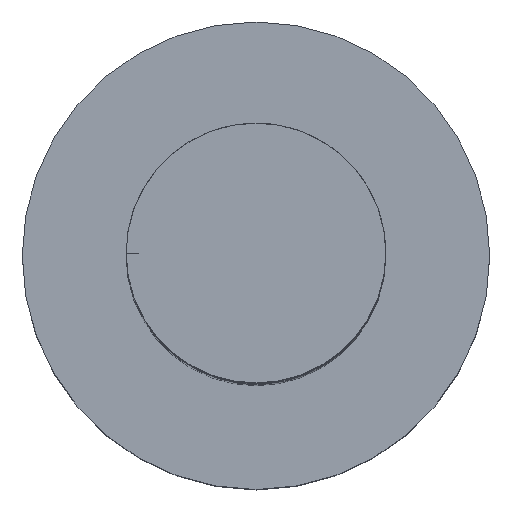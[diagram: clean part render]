
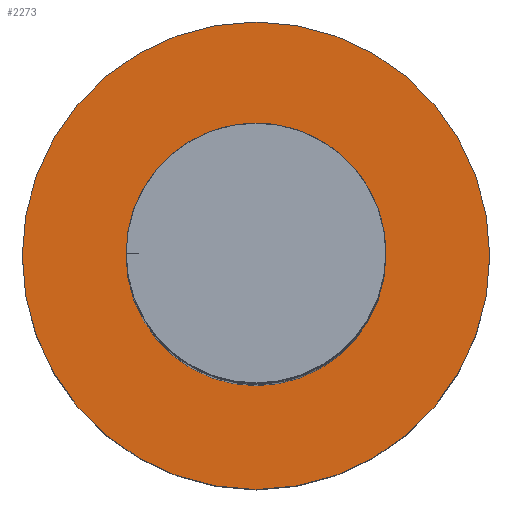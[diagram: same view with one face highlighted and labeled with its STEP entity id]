
A CAD part, top view. The second image highlights one B-rep face of the part: STEP entity #2273.
In plain terms, the highlighted planar face has unit normal (0, 0, 1).
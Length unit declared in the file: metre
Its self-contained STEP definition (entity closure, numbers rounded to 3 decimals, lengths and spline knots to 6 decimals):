
#37 = DIRECTION ( 'NONE',  ( 0., 0., -1. ) ) ;
#129 = DIRECTION ( 'NONE',  ( 0., 0., -1. ) ) ;
#132 = DIRECTION ( 'NONE',  ( 0., 0., 1. ) ) ;
#224 = EDGE_CURVE ( 'NONE', #3216, #2424, #1460, .T. ) ;
#284 = DIRECTION ( 'NONE',  ( -1., 0., 0. ) ) ;
#291 = DIRECTION ( 'NONE',  ( 1., 0., 0. ) ) ;
#391 = AXIS2_PLACEMENT_3D ( 'NONE', #2834, #2802, #284 ) ;
#472 = EDGE_CURVE ( 'NONE', #1583, #1929, #933, .T. ) ;
#526 = ORIENTED_EDGE ( 'NONE', *, *, #472, .F. ) ;
#562 = CARTESIAN_POINT ( 'NONE',  ( -0.00225, 0., 0. ) ) ;
#933 = CIRCLE ( 'NONE', #1653, 0.00125 ) ;
#1030 = EDGE_LOOP ( 'NONE', ( #526, #1840 ) ) ;
#1176 = CARTESIAN_POINT ( 'NONE',  ( 0., 0., 0. ) ) ;
#1209 = CARTESIAN_POINT ( 'NONE',  ( 0.00225, 0., 0. ) ) ;
#1250 = ORIENTED_EDGE ( 'NONE', *, *, #224, .F. ) ;
#1258 = EDGE_CURVE ( 'NONE', #2424, #3216, #1548, .T. ) ;
#1361 = AXIS2_PLACEMENT_3D ( 'NONE', #1401, #37, #2254 ) ;
#1401 = CARTESIAN_POINT ( 'NONE',  ( 0., 0., 0. ) ) ;
#1453 = CARTESIAN_POINT ( 'NONE',  ( 0., 0., 0. ) ) ;
#1460 = CIRCLE ( 'NONE', #391, 0.00225 ) ;
#1537 = CARTESIAN_POINT ( 'NONE',  ( 0., 0., 0. ) ) ;
#1548 = CIRCLE ( 'NONE', #3651, 0.00225 ) ;
#1583 = VERTEX_POINT ( 'NONE', #1698 ) ;
#1653 = AXIS2_PLACEMENT_3D ( 'NONE', #1453, #1737, #291 ) ;
#1655 = CIRCLE ( 'NONE', #3503, 0.00125 ) ;
#1698 = CARTESIAN_POINT ( 'NONE',  ( -0.00125, 0., 0. ) ) ;
#1701 = ORIENTED_EDGE ( 'NONE', *, *, #1258, .F. ) ;
#1709 = DIRECTION ( 'NONE',  ( 1., 0., 0. ) ) ;
#1737 = DIRECTION ( 'NONE',  ( 0., 0., 1. ) ) ;
#1840 = ORIENTED_EDGE ( 'NONE', *, *, #2527, .F. ) ;
#1929 = VERTEX_POINT ( 'NONE', #3047 ) ;
#2254 = DIRECTION ( 'NONE',  ( -1., 0., 0. ) ) ;
#2273 = ADVANCED_FACE ( 'NONE', ( #3160, #2549 ), #2307, .F. ) ;
#2307 = PLANE ( 'NONE',  #1361 ) ;
#2424 = VERTEX_POINT ( 'NONE', #1209 ) ;
#2527 = EDGE_CURVE ( 'NONE', #1929, #1583, #1655, .T. ) ;
#2549 = FACE_OUTER_BOUND ( 'NONE', #3076, .T. ) ;
#2802 = DIRECTION ( 'NONE',  ( 0., 0., -1. ) ) ;
#2834 = CARTESIAN_POINT ( 'NONE',  ( 0., 0., 0. ) ) ;
#2859 = DIRECTION ( 'NONE',  ( -1., 0., 0. ) ) ;
#3047 = CARTESIAN_POINT ( 'NONE',  ( 0.00125, 0., 0. ) ) ;
#3076 = EDGE_LOOP ( 'NONE', ( #1701, #1250 ) ) ;
#3160 = FACE_BOUND ( 'NONE', #1030, .T. ) ;
#3216 = VERTEX_POINT ( 'NONE', #562 ) ;
#3503 = AXIS2_PLACEMENT_3D ( 'NONE', #1537, #132, #1709 ) ;
#3651 = AXIS2_PLACEMENT_3D ( 'NONE', #1176, #129, #2859 ) ;
